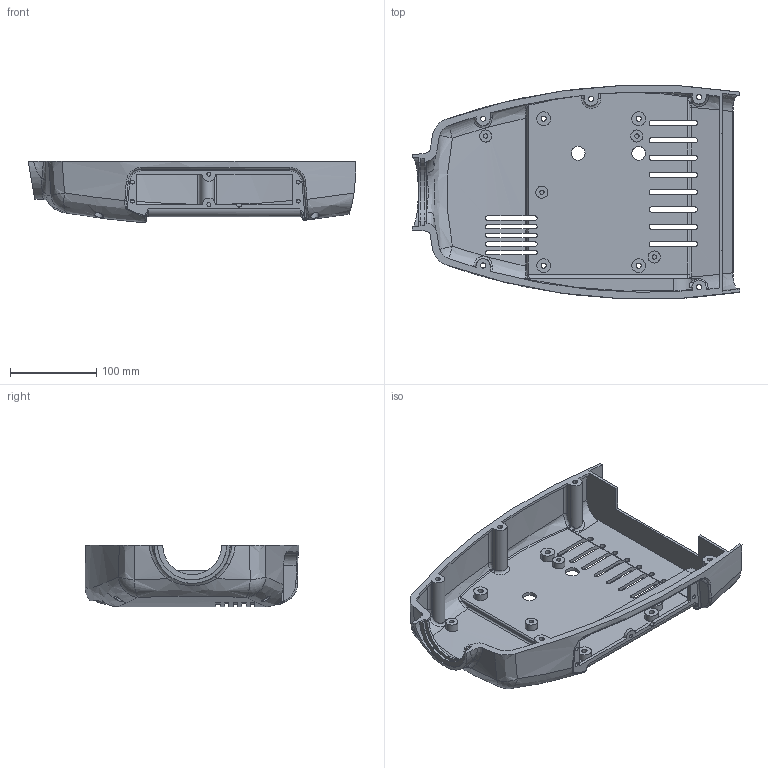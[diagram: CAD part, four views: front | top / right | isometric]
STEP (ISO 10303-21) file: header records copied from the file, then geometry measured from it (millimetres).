
FILE_DESCRIPTION(('CATIA V5 STEP Exchange'),'2;1');
FILE_NAME('C:\Documents and Settings\Administrator\Desktop\lowerbody-3.stp','2008-08-30T09:30:22+00:00',('none'),('none'),'CATIA Version 5 Release 17 (IN-10)','CATIA V5 STEP AP203','none');
FILE_SCHEMA(('CONFIG_CONTROL_DESIGN'));
Length unit declared in the file: millimetre
Products named in the file (1): lower
Bounding box: 379.3 x 247.32 x 70.98 mm (x, y, z)
Volume: 568964.1 mm3; surface area: 285840.6 mm2
Topology: 1 solids, 1 shells, 448 faces, 1281 edges, 814 vertices
Faces by surface type: cylinder 222, plane 116, bspline 95, sphere 6, torus 5, revolution 4
Entity records: 22442 total; most frequent: CARTESIAN_POINT 12328, ORIENTED_EDGE 2538, DIRECTION 1311, EDGE_CURVE 1269, VERTEX_POINT 814, AXIS2_PLACEMENT_3D 608, VECTOR 512, LINE 512
